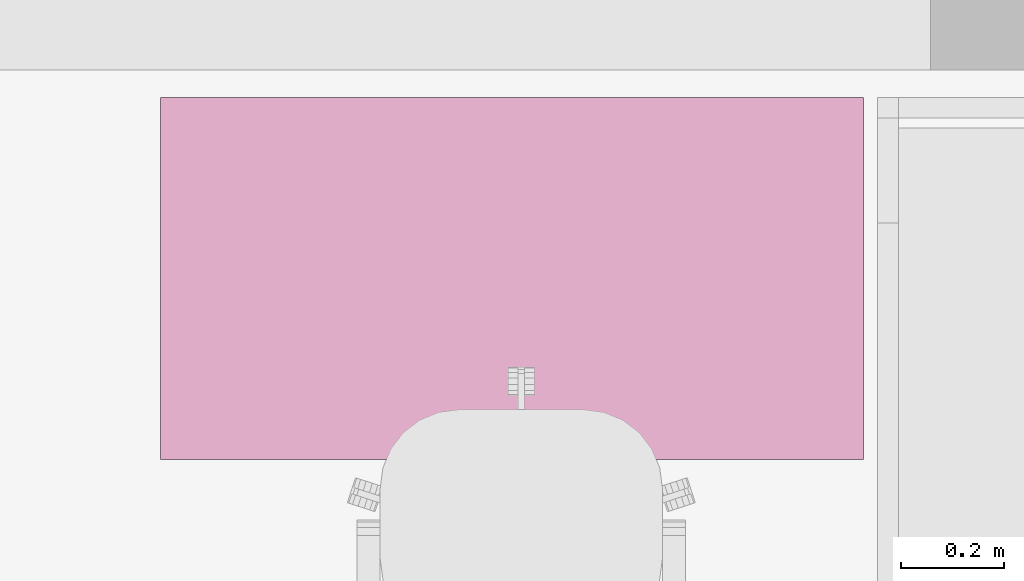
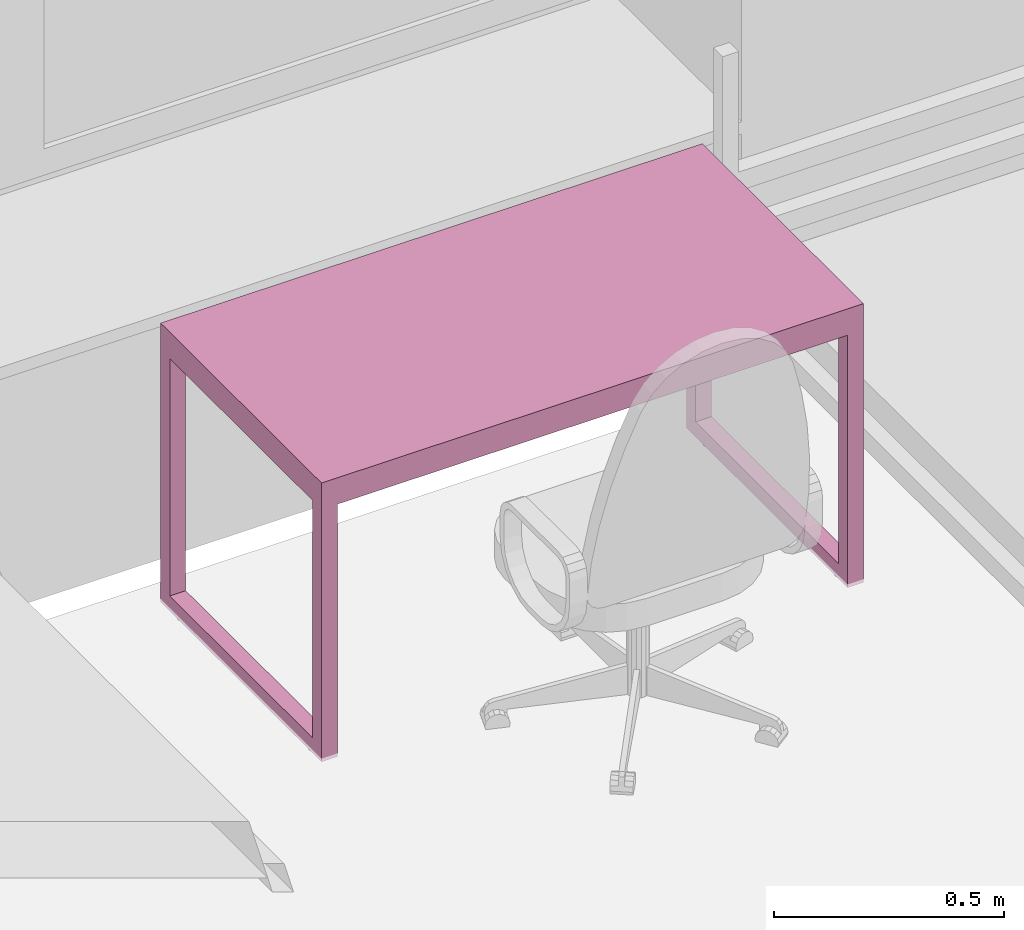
# One storey, part 48 of 48: 1 furnishing.
"""IFC2X3 building model written with IfcOpenShell, lengths in millimetres."""

from ifc_helpers import new_model, entity, si_unit, converted_unit, derived_unit, direction, frame, origin, place, context, subcontext, project, spatial, faceted_brep, source, transform, mapped, material, material_list, type_object, type_shapes, element, save


model = new_model("IFC2X3")

# Units and contexts
model_context = context("Model", 3, precision=0.01, world=origin(), true_north=direction((6.12303176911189e-17, 1.0)))
body_context = subcontext(model_context, "Body", "Model", "MODEL_VIEW")
ifc_project = project(units=[si_unit("LENGTHUNIT", "METRE", prefix="MILLI"), si_unit("AREAUNIT", "SQUARE_METRE"), si_unit("VOLUMEUNIT", "CUBIC_METRE"), converted_unit("PLANEANGLEUNIT", "DEGREE", entity("IfcRatioMeasure", 0.0174532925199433), si_unit("PLANEANGLEUNIT", "RADIAN"), dimensions=[0, 0, 0, 0, 0, 0, 0]), si_unit("MASSUNIT", "GRAM", prefix="KILO"), derived_unit("MASSDENSITYUNIT", [(si_unit("MASSUNIT", "GRAM", prefix="KILO"), 1), (si_unit("LENGTHUNIT", "METRE"), -3)]), si_unit("TIMEUNIT", "SECOND"), si_unit("FREQUENCYUNIT", "HERTZ"), si_unit("THERMODYNAMICTEMPERATUREUNIT", "DEGREE_CELSIUS"), derived_unit("THERMALTRANSMITTANCEUNIT", [(si_unit("MASSUNIT", "GRAM", prefix="KILO"), 1), (si_unit("THERMODYNAMICTEMPERATUREUNIT", "KELVIN"), -1), (si_unit("TIMEUNIT", "SECOND"), -3)]), derived_unit("VOLUMETRICFLOWRATEUNIT", [(si_unit("LENGTHUNIT", "METRE"), 3), (si_unit("TIMEUNIT", "SECOND"), -1)]), si_unit("ELECTRICCURRENTUNIT", "AMPERE"), si_unit("ELECTRICVOLTAGEUNIT", "VOLT"), si_unit("POWERUNIT", "WATT"), si_unit("FORCEUNIT", "NEWTON", prefix="KILO"), si_unit("ILLUMINANCEUNIT", "LUX"), si_unit("LUMINOUSFLUXUNIT", "LUMEN"), si_unit("LUMINOUSINTENSITYUNIT", "CANDELA"), derived_unit("USERDEFINED", [(si_unit("MASSUNIT", "GRAM", prefix="KILO"), -1), (si_unit("LENGTHUNIT", "METRE"), -2), (si_unit("TIMEUNIT", "SECOND"), 3), (si_unit("LUMINOUSFLUXUNIT", "LUMEN"), 1)]), derived_unit("LINEARVELOCITYUNIT", [(si_unit("LENGTHUNIT", "METRE"), 1), (si_unit("TIMEUNIT", "SECOND"), -1)]), si_unit("PRESSUREUNIT", "PASCAL"), derived_unit("USERDEFINED", [(si_unit("LENGTHUNIT", "METRE"), -2), (si_unit("MASSUNIT", "GRAM", prefix="KILO"), 1), (si_unit("TIMEUNIT", "SECOND"), -2)]), derived_unit("LINEARFORCEUNIT", [(si_unit("MASSUNIT", "GRAM", prefix="KILO"), 1), (si_unit("LENGTHUNIT", "METRE"), 1), (si_unit("TIMEUNIT", "SECOND"), -2), (si_unit("LENGTHUNIT", "METRE"), -1)]), derived_unit("PLANARFORCEUNIT", [(si_unit("MASSUNIT", "GRAM", prefix="KILO"), 1), (si_unit("LENGTHUNIT", "METRE"), 1), (si_unit("TIMEUNIT", "SECOND"), -2), (si_unit("LENGTHUNIT", "METRE"), -2)])], contexts=[model_context])

# Site, building, storey, space
site_placement = place(None, origin())
site = spatial("IfcSite", under=ifc_project, at=site_placement, Name="Default", CompositionType="ELEMENT")
building_placement = place(site_placement, origin())
building = spatial("IfcBuilding", under=site, at=building_placement, Name="SMA ARH", CompositionType="ELEMENT")
storey_placement = place(building_placement, frame((0.0, 0.0, 6600.0)))
storey = spatial("IfcBuildingStorey", under=building, at=storey_placement, Name="3 Korrus", CompositionType="ELEMENT", Elevation=6599.99999999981)
space_placement = place(storey_placement, origin())
space = spatial("IfcSpace", under=storey, at=space_placement, Name="3-31/1", CompositionType="ELEMENT", InteriorOrExteriorSpace="INTERNAL")

# Furnishing
ifc_material = material(Name="<Unnamed>")
ifc_material_list = material_list([ifc_material, ifc_material])
furniture_type = type_object("IfcFurnitureType", Name="kirjutuslaud 1360x700mm:kirjutuslaud 1360x700mm", material=ifc_material_list)
shared_shape = source(origin(), body_context, "Body", "Brep", [
    faceted_brep([(680.0, -350.0, 720.0), (680.0, 350.0, 720.0), (680.0, 350.0, 750.0), (680.0, -350.0, 750.0), (-680.0, -350.0, 720.0), (-680.0, -350.0, 750.0), (-680.0, 350.0, 750.0), (-680.0, 350.0, 720.0)], [[[0, 1, 2, 3]], [[4, 5, 6, 7]], [[1, 0, 4, 7]], [[2, 1, 7, 6]], [[3, 2, 6, 5]], [[0, 3, 5, 4]]]),
    faceted_brep([(-640.0, -310.0, 680.0), (-640.0, 310.0, 680.0), (-640.0, 310.0, 720.0), (-640.0, -310.0, 720.0), (-680.0, -350.0, 720.0), (-680.0, 350.0, 720.0), (-680.0, 350.0, 10.0), (-680.0, -350.0, 10.0), (-680.0, 310.0, 680.0), (-680.0, -310.0, 680.0), (-680.0, -310.0, 50.0), (-680.0, 310.0, 50.0), (-640.0, -350.0, 10.0), (-640.0, -350.0, 680.0), (640.0, -350.0, 680.0), (640.0, -350.0, 10.0), (680.0, -350.0, 10.0), (680.0, -350.0, 720.0), (-640.0, 350.0, 10.0), (680.0, 350.0, 720.0), (680.0, 350.0, 10.0), (640.0, 350.0, 10.0), (640.0, 350.0, 680.0), (-640.0, 350.0, 680.0), (640.0, 310.0, 720.0), (640.0, -310.0, 720.0), (-640.0, 310.0, 50.0), (-640.0, -310.0, 50.0), (640.0, -310.0, 680.0), (640.0, 310.0, 680.0), (680.0, 310.0, 680.0), (680.0, 310.0, 50.0), (680.0, -310.0, 50.0), (680.0, -310.0, 680.0), (640.0, -310.0, 50.0), (640.0, 310.0, 50.0)], [[[0, 1, 2, 3]], [[4, 5, 6, 7], [8, 9, 10, 11]], [[4, 7, 12, 13, 14, 15, 16, 17]], [[18, 12, 7, 6]], [[6, 5, 19, 20, 21, 22, 23, 18]], [[19, 5, 4, 17], [2, 24, 25, 3]], [[26, 1, 8, 11]], [[27, 26, 11, 10]], [[0, 27, 10, 9]], [[1, 0, 9, 8]], [[14, 13, 0, 28]], [[24, 2, 1, 29]], [[3, 25, 28, 0]], [[17, 16, 20, 19], [30, 31, 32, 33]], [[21, 15, 14, 28, 34, 35, 29, 22]], [[20, 16, 15, 21]], [[31, 30, 29, 35]], [[32, 31, 35, 34]], [[33, 32, 34, 28]], [[30, 33, 28, 29]], [[29, 28, 25, 24]], [[29, 1, 23, 22]], [[12, 18, 23, 1, 26, 27, 0, 13]]]),
    faceted_brep([(-663.729456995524, -270.466136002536, 0.0), (-659.847171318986, -269.955023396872, 0.0), (-655.964885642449, -270.466136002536, 0.0), (-652.347171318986, -271.964642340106, 0.0), (-649.240569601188, -274.348421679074, 0.0), (-646.85679026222, -277.455023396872, 0.0), (-645.35828392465, -281.072737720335, 0.0), (-644.847171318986, -284.955023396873, 0.0), (-645.35828392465, -288.83730907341, 0.0), (-646.85679026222, -292.455023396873, 0.0), (-649.240569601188, -295.561625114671, 0.0), (-652.347171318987, -297.945404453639, 0.0), (-655.964885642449, -299.443910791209, 0.0), (-659.847171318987, -299.955023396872, 0.0), (-663.729456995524, -299.443910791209, 0.0), (-667.347171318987, -297.945404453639, 0.0), (-670.453773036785, -295.561625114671, 0.0), (-672.837552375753, -292.455023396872, 0.0), (-674.336058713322, -288.83730907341, 0.0), (-674.847171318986, -284.955023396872, 0.0), (-674.336058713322, -281.072737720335, 0.0), (-672.837552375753, -277.455023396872, 0.0), (-670.453773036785, -274.348421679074, 0.0), (-667.347171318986, -271.964642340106, 0.0), (-655.964885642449, -299.443910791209, 10.0), (-652.347171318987, -297.945404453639, 10.0), (-649.240569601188, -295.561625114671, 10.0), (-646.85679026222, -292.455023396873, 10.0), (-645.35828392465, -288.83730907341, 10.0), (-644.847171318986, -284.955023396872, 10.0), (-645.35828392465, -281.072737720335, 10.0), (-646.85679026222, -277.455023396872, 10.0), (-649.240569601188, -274.348421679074, 10.0), (-652.347171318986, -271.964642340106, 10.0), (-655.964885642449, -270.466136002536, 10.0), (-659.847171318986, -269.955023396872, 10.0), (-663.729456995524, -270.466136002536, 10.0), (-667.347171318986, -271.964642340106, 10.0), (-670.453773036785, -274.348421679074, 10.0), (-672.837552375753, -277.455023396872, 10.0), (-674.336058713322, -281.072737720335, 10.0), (-674.847171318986, -284.955023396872, 10.0), (-674.336058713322, -288.83730907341, 10.0), (-672.837552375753, -292.455023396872, 10.0), (-670.453773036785, -295.561625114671, 10.0), (-667.347171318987, -297.945404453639, 10.0), (-663.729456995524, -299.443910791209, 10.0), (-659.847171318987, -299.955023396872, 10.0)], [[[0, 1, 2, 3, 4, 5, 6, 7, 8, 9, 10, 11, 12, 13, 14, 15, 16, 17, 18, 19, 20, 21, 22, 23]], [[24, 25, 26, 27, 28, 29, 30, 31, 32, 33, 34, 35, 36, 37, 38, 39, 40, 41, 42, 43, 44, 45, 46, 47]], [[18, 42, 41, 19]], [[17, 43, 42, 18]], [[45, 44, 16, 15]], [[17, 16, 44, 43]], [[46, 45, 15, 14]], [[47, 46, 14, 13]], [[12, 24, 47, 13]], [[11, 25, 24, 12]], [[27, 26, 10, 9]], [[11, 10, 26, 25]], [[28, 27, 9, 8]], [[29, 28, 8, 7]], [[6, 30, 29, 7]], [[5, 31, 30, 6]], [[33, 32, 4, 3]], [[5, 4, 32, 31]], [[34, 33, 3, 2]], [[35, 34, 2, 1]], [[0, 36, 35, 1]], [[23, 37, 36, 0]], [[39, 38, 22, 21]], [[23, 22, 38, 37]], [[40, 39, 21, 20]], [[41, 40, 20, 19]]]),
    faceted_brep([(-655.964885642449, 270.466136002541, 10.0), (-652.347171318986, 271.964642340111, 10.0), (-649.240569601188, 274.348421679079, 10.0), (-646.85679026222, 277.455023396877, 10.0), (-645.35828392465, 281.07273772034, 10.0), (-644.847171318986, 284.955023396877, 10.0), (-645.35828392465, 288.837309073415, 10.0), (-646.85679026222, 292.455023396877, 10.0), (-649.240569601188, 295.561625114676, 10.0), (-652.347171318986, 297.945404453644, 10.0), (-655.964885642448, 299.443910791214, 10.0), (-659.847171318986, 299.955023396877, 10.0), (-663.729456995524, 299.443910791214, 10.0), (-667.347171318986, 297.945404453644, 10.0), (-670.453773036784, 295.561625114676, 10.0), (-672.837552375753, 292.455023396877, 10.0), (-674.336058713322, 288.837309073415, 10.0), (-674.847171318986, 284.955023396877, 10.0), (-674.336058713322, 281.07273772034, 10.0), (-672.837552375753, 277.455023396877, 10.0), (-670.453773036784, 274.348421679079, 10.0), (-667.347171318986, 271.964642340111, 10.0), (-663.729456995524, 270.466136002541, 10.0), (-659.847171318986, 269.955023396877, 10.0), (-655.964885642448, 299.443910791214, 0.0), (-652.347171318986, 297.945404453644, 0.0), (-649.240569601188, 295.561625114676, 0.0), (-646.85679026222, 292.455023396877, 0.0), (-645.35828392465, 288.837309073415, 0.0), (-644.847171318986, 284.955023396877, 0.0), (-645.35828392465, 281.07273772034, 0.0), (-646.85679026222, 277.455023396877, 0.0), (-649.240569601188, 274.348421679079, 0.0), (-652.347171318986, 271.964642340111, 0.0), (-655.964885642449, 270.466136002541, 0.0), (-659.847171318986, 269.955023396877, 0.0), (-663.729456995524, 270.466136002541, 0.0), (-667.347171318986, 271.964642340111, 0.0), (-670.453773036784, 274.348421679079, 0.0), (-672.837552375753, 277.455023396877, 0.0), (-674.336058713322, 281.07273772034, 0.0), (-674.847171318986, 284.955023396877, 0.0), (-674.336058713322, 288.837309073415, 0.0), (-672.837552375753, 292.455023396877, 0.0), (-670.453773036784, 295.561625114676, 0.0), (-667.347171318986, 297.945404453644, 0.0), (-663.729456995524, 299.443910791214, 0.0), (-659.847171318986, 299.955023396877, 0.0)], [[[0, 1, 2, 3, 4, 5, 6, 7, 8, 9, 10, 11, 12, 13, 14, 15, 16, 17, 18, 19, 20, 21, 22, 23]], [[24, 25, 26, 27, 28, 29, 30, 31, 32, 33, 34, 35, 36, 37, 38, 39, 40, 41, 42, 43, 44, 45, 46, 47]], [[40, 18, 17, 41]], [[39, 19, 18, 40]], [[21, 20, 38, 37]], [[39, 38, 20, 19]], [[22, 21, 37, 36]], [[23, 22, 36, 35]], [[34, 0, 23, 35]], [[33, 1, 0, 34]], [[3, 2, 32, 31]], [[33, 32, 2, 1]], [[4, 3, 31, 30]], [[5, 4, 30, 29]], [[28, 6, 5, 29]], [[27, 7, 6, 28]], [[9, 8, 26, 25]], [[27, 26, 8, 7]], [[10, 9, 25, 24]], [[11, 10, 24, 47]], [[46, 12, 11, 47]], [[45, 13, 12, 46]], [[15, 14, 44, 43]], [[45, 44, 14, 13]], [[16, 15, 43, 42]], [[17, 16, 42, 41]]]),
    faceted_brep([(656.270543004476, -270.466136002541, 0.0), (660.152828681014, -269.955023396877, 0.0), (664.035114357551, -270.466136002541, 0.0), (667.652828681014, -271.96464234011, 0.0), (670.759430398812, -274.348421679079, 0.0), (673.14320973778, -277.455023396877, 0.0), (674.64171607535, -281.072737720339, 0.0), (675.152828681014, -284.955023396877, 0.0), (674.64171607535, -288.837309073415, 0.0), (673.14320973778, -292.455023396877, 0.0), (670.759430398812, -295.561625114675, 0.0), (667.652828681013, -297.945404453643, 0.0), (664.035114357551, -299.443910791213, 0.0), (660.152828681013, -299.955023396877, 0.0), (656.270543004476, -299.443910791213, 0.0), (652.652828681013, -297.945404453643, 0.0), (649.546226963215, -295.561625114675, 0.0), (647.162447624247, -292.455023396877, 0.0), (645.663941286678, -288.837309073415, 0.0), (645.152828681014, -284.955023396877, 0.0), (645.663941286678, -281.072737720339, 0.0), (647.162447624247, -277.455023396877, 0.0), (649.546226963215, -274.348421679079, 0.0), (652.652828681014, -271.96464234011, 0.0), (664.035114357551, -299.443910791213, 10.0), (667.652828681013, -297.945404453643, 10.0), (670.759430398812, -295.561625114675, 10.0), (673.14320973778, -292.455023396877, 10.0), (674.64171607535, -288.837309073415, 10.0), (675.152828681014, -284.955023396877, 10.0), (674.64171607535, -281.072737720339, 10.0), (673.14320973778, -277.455023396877, 10.0), (670.759430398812, -274.348421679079, 10.0), (667.652828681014, -271.96464234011, 10.0), (664.035114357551, -270.466136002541, 10.0), (660.152828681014, -269.955023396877, 10.0), (656.270543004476, -270.466136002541, 10.0), (652.652828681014, -271.96464234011, 10.0), (649.546226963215, -274.348421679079, 10.0), (647.162447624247, -277.455023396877, 10.0), (645.663941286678, -281.072737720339, 10.0), (645.152828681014, -284.955023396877, 10.0), (645.663941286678, -288.837309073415, 10.0), (647.162447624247, -292.455023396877, 10.0), (649.546226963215, -295.561625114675, 10.0), (652.652828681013, -297.945404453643, 10.0), (656.270543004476, -299.443910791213, 10.0), (660.152828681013, -299.955023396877, 10.0)], [[[0, 1, 2, 3, 4, 5, 6, 7, 8, 9, 10, 11, 12, 13, 14, 15, 16, 17, 18, 19, 20, 21, 22, 23]], [[24, 25, 26, 27, 28, 29, 30, 31, 32, 33, 34, 35, 36, 37, 38, 39, 40, 41, 42, 43, 44, 45, 46, 47]], [[18, 42, 41, 19]], [[17, 43, 42, 18]], [[45, 44, 16, 15]], [[17, 16, 44, 43]], [[46, 45, 15, 14]], [[47, 46, 14, 13]], [[12, 24, 47, 13]], [[11, 25, 24, 12]], [[27, 26, 10, 9]], [[11, 10, 26, 25]], [[28, 27, 9, 8]], [[29, 28, 8, 7]], [[6, 30, 29, 7]], [[5, 31, 30, 6]], [[33, 32, 4, 3]], [[5, 4, 32, 31]], [[34, 33, 3, 2]], [[35, 34, 2, 1]], [[0, 36, 35, 1]], [[23, 37, 36, 0]], [[39, 38, 22, 21]], [[23, 22, 38, 37]], [[40, 39, 21, 20]], [[41, 40, 20, 19]]]),
    faceted_brep([(664.035114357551, 270.466136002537, 10.0), (667.652828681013, 271.964642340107, 10.0), (670.759430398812, 274.348421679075, 10.0), (673.14320973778, 277.455023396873, 10.0), (674.64171607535, 281.072737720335, 10.0), (675.152828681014, 284.955023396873, 10.0), (674.64171607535, 288.837309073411, 10.0), (673.14320973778, 292.455023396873, 10.0), (670.759430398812, 295.561625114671, 10.0), (667.652828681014, 297.94540445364, 10.0), (664.035114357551, 299.443910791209, 10.0), (660.152828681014, 299.955023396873, 10.0), (656.270543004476, 299.443910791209, 10.0), (652.652828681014, 297.94540445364, 10.0), (649.546226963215, 295.561625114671, 10.0), (647.162447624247, 292.455023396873, 10.0), (645.663941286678, 288.837309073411, 10.0), (645.152828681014, 284.955023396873, 10.0), (645.663941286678, 281.072737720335, 10.0), (647.162447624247, 277.455023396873, 10.0), (649.546226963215, 274.348421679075, 10.0), (652.652828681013, 271.964642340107, 10.0), (656.270543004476, 270.466136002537, 10.0), (660.152828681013, 269.955023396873, 10.0), (664.035114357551, 299.443910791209, 0.0), (667.652828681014, 297.94540445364, 0.0), (670.759430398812, 295.561625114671, 0.0), (673.14320973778, 292.455023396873, 0.0), (674.64171607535, 288.837309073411, 0.0), (675.152828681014, 284.955023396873, 0.0), (674.64171607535, 281.072737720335, 0.0), (673.14320973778, 277.455023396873, 0.0), (670.759430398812, 274.348421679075, 0.0), (667.652828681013, 271.964642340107, 0.0), (664.035114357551, 270.466136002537, 0.0), (660.152828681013, 269.955023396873, 0.0), (656.270543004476, 270.466136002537, 0.0), (652.652828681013, 271.964642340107, 0.0), (649.546226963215, 274.348421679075, 0.0), (647.162447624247, 277.455023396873, 0.0), (645.663941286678, 281.072737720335, 0.0), (645.152828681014, 284.955023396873, 0.0), (645.663941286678, 288.837309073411, 0.0), (647.162447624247, 292.455023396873, 0.0), (649.546226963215, 295.561625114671, 0.0), (652.652828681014, 297.94540445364, 0.0), (656.270543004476, 299.443910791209, 0.0), (660.152828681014, 299.955023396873, 0.0)], [[[0, 1, 2, 3, 4, 5, 6, 7, 8, 9, 10, 11, 12, 13, 14, 15, 16, 17, 18, 19, 20, 21, 22, 23]], [[24, 25, 26, 27, 28, 29, 30, 31, 32, 33, 34, 35, 36, 37, 38, 39, 40, 41, 42, 43, 44, 45, 46, 47]], [[40, 18, 17, 41]], [[39, 19, 18, 40]], [[21, 20, 38, 37]], [[39, 38, 20, 19]], [[22, 21, 37, 36]], [[23, 22, 36, 35]], [[34, 0, 23, 35]], [[33, 1, 0, 34]], [[3, 2, 32, 31]], [[33, 32, 2, 1]], [[4, 3, 31, 30]], [[5, 4, 30, 29]], [[28, 6, 5, 29]], [[27, 7, 6, 28]], [[9, 8, 26, 25]], [[27, 26, 8, 7]], [[10, 9, 25, 24]], [[11, 10, 24, 47]], [[46, 12, 11, 47]], [[45, 13, 12, 46]], [[15, 14, 44, 43]], [[45, 44, 14, 13]], [[16, 15, 43, 42]], [[17, 16, 42, 41]]]),
])
type_shapes(furniture_type, [shared_shape])
furnishing_placement = place(space_placement, frame((36770.6075367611, 12096.686384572, 0.0)))
element("IfcFurnishingElement", 1, at=furnishing_placement, inside=space, type_object=furniture_type, Name="kirjutuslaud 1360x700mm:kirjutuslaud 1360x700mm", ObjectType="kirjutuslaud 1360x700mm:kirjutuslaud 1360x700mm", context=body_context, shape_type="MappedRepresentation", body=[
    mapped(shared_shape, transform((0.0, 0.0, 0.0), scale=1.0)),
])

save(model, "model.ifc")
